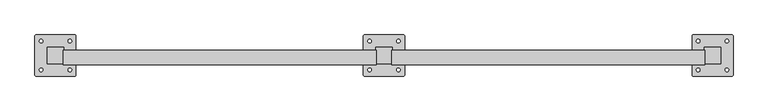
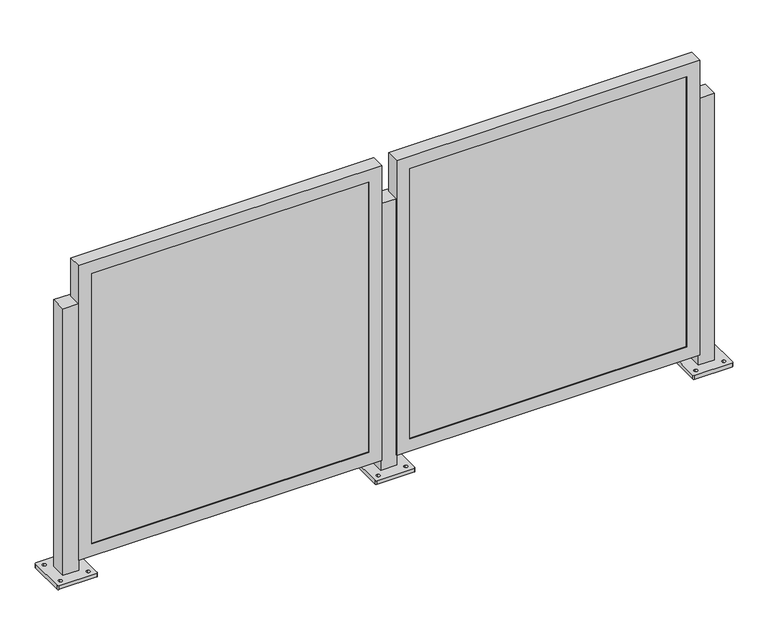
"""IFC4 building model written with IfcOpenShell, lengths in millimetres: railing geometry, Railing - Amico Architectural - Perforated Railing - Apex03."""

from ifc_helpers import new_model, si_unit, frame, origin, place, context, project, spatial, polyline, circle_curve, outline, extrude, faceted_brep, source, transform, mapped, element, save
from ifc_brep_helpers import plane_surface, cylinder_surface, revolved_surface, advanced_brep


def railing_c32b87f0(model_context):
    return source(origin(), model_context, "Body", "SolidModel", [
        advanced_brep(
        [(-26997.5891671, -9669.5402105, 914.4), (-26997.5891671, -9720.3402105, 914.4), (-26946.7891671, -9720.3402105, 914.4), (-26946.7891671, -9669.5402105, 914.4), (-27035.6891672, -9755.2651694, 0.0), (-27035.6891672, -9634.6152515, 0.0), (-27032.5141391, -9631.4402233, 0.0), (-26911.8641951, -9631.4402233, 0.0), (-26908.6891669, -9634.6152515, 0.0), (-26908.6891669, -9755.2651694, 0.0), (-26911.8641951, -9758.4401976, 0.0), (-27032.5141391, -9758.4401976, 0.0), (-27016.6391546, -9744.9464651, 0.0), (-27016.6391546, -9733.8339526, 0.0), (-27016.6391655, -9656.0464607, 0.0), (-27016.6391655, -9644.9339791, 0.0), (-26927.7391536, -9744.9464636, 0.0), (-26927.7391536, -9733.8339529, 0.0), (-26927.7391646, -9656.0464592, 0.0), (-26927.7391646, -9644.9339794, 0.0), (-26997.5891671, -9669.5402105, 12.7), (-26997.5891671, -9720.3402105, 12.7), (-26946.7891671, -9720.3402105, 12.7), (-26946.7891671, -9669.5402105, 12.7), (-27035.6891672, -9755.2651694, 12.7), (-27032.5141391, -9758.4401976, 12.7), (-26911.8641951, -9758.4401976, 12.7), (-26908.6891669, -9755.2651694, 12.7), (-26908.6891669, -9634.6152515, 12.7), (-26911.8641951, -9631.4402233, 12.7), (-27032.5141391, -9631.4402233, 12.7), (-27035.6891672, -9634.6152515, 12.7), (-27016.6391546, -9744.9464651, 12.7), (-27016.6391546, -9733.8339526, 12.7), (-27016.6391655, -9656.0464607, 12.7), (-27016.6391655, -9644.9339791, 12.7), (-26927.7391536, -9744.9464636, 12.7), (-26927.7391536, -9733.8339529, 12.7), (-26927.7391646, -9656.0464592, 12.7), (-26927.7391646, -9644.9339794, 12.7)],
        [
            (0, 1),
            (1, 2),
            (2, 3),
            (3, 0),
            (4, 5),
            (5, 6, circle_curve(frame((-27032.5141391, -9634.6152515, 0.0), z_axis=(0.0, 0.0, -1.0), x_axis=(0.0, 1.0, 0.0)), 3.1750282)),
            (6, 7),
            (7, 8, circle_curve(frame((-26911.8641951, -9634.6152515, 0.0), z_axis=(0.0, 0.0, -1.0), x_axis=(0.0, 1.0, 0.0)), 3.1750282)),
            (8, 9),
            (9, 10, circle_curve(frame((-26911.8641951, -9755.2651694, 0.0), z_axis=(0.0, 0.0, -1.0), x_axis=(0.0, 1.0, 0.0)), 3.1750282)),
            (10, 11),
            (11, 4, circle_curve(frame((-27032.5141391, -9755.2651694, 0.0), z_axis=(0.0, 0.0, -1.0), x_axis=(0.0, 1.0, 0.0)), 3.1750282)),
            (12, 13, circle_curve(frame((-27016.6391546, -9739.3902089, 0.0), z_axis=(0.0, 0.0, 1.0), x_axis=(0.0, 1.0, 0.0)), 5.5562562)),
            (13, 12, circle_curve(frame((-27016.6391546, -9739.3902089, 0.0), z_axis=(0.0, 0.0, 1.0), x_axis=(0.0, 1.0, 0.0)), 5.5562562)),
            (14, 15, circle_curve(frame((-27016.6391655, -9650.4902199, 0.0), z_axis=(0.0, 0.0, 1.0), x_axis=(0.0, 1.0, 0.0)), 5.5562408)),
            (15, 14, circle_curve(frame((-27016.6391655, -9650.4902199, 0.0), z_axis=(0.0, 0.0, 1.0), x_axis=(0.0, 1.0, 0.0)), 5.5562408)),
            (16, 17, circle_curve(frame((-26927.7391536, -9739.3902082, 0.0), z_axis=(0.0, 0.0, 1.0), x_axis=(0.0, 1.0, 0.0)), 5.5562553)),
            (17, 16, circle_curve(frame((-26927.7391536, -9739.3902082, 0.0), z_axis=(0.0, 0.0, 1.0), x_axis=(0.0, 1.0, 0.0)), 5.5562553)),
            (18, 19, circle_curve(frame((-26927.7391646, -9650.4902193, 0.0), z_axis=(0.0, 0.0, 1.0), x_axis=(0.0, 1.0, 0.0)), 5.5562399)),
            (19, 18, circle_curve(frame((-26927.7391646, -9650.4902193, 0.0), z_axis=(0.0, 0.0, 1.0), x_axis=(0.0, 1.0, 0.0)), 5.5562399)),
            (0, 20),
            (20, 21),
            (21, 1),
            (21, 22),
            (22, 2),
            (22, 23),
            (23, 3),
            (23, 20),
            (24, 25, circle_curve(frame((-27032.5141391, -9755.2651694, 12.7), z_axis=(0.0, 0.0, 1.0), x_axis=(0.0, 1.0, 0.0)), 3.1750282)),
            (25, 26),
            (26, 27, circle_curve(frame((-26911.8641951, -9755.2651694, 12.7), z_axis=(0.0, 0.0, 1.0), x_axis=(0.0, 1.0, 0.0)), 3.1750282)),
            (27, 28),
            (28, 29, circle_curve(frame((-26911.8641951, -9634.6152515, 12.7), z_axis=(0.0, 0.0, 1.0), x_axis=(0.0, 1.0, 0.0)), 3.1750282)),
            (29, 30),
            (30, 31, circle_curve(frame((-27032.5141391, -9634.6152515, 12.7), z_axis=(0.0, 0.0, 1.0), x_axis=(0.0, 1.0, 0.0)), 3.1750282)),
            (31, 24),
            (32, 33, circle_curve(frame((-27016.6391546, -9739.3902089, 12.7), z_axis=(0.0, 0.0, -1.0), x_axis=(0.0, 1.0, 0.0)), 5.5562562)),
            (33, 32, circle_curve(frame((-27016.6391546, -9739.3902089, 12.7), z_axis=(0.0, 0.0, -1.0), x_axis=(0.0, 1.0, 0.0)), 5.5562562)),
            (34, 35, circle_curve(frame((-27016.6391655, -9650.4902199, 12.7), z_axis=(0.0, 0.0, -1.0), x_axis=(0.0, 1.0, 0.0)), 5.5562408)),
            (35, 34, circle_curve(frame((-27016.6391655, -9650.4902199, 12.7), z_axis=(0.0, 0.0, -1.0), x_axis=(0.0, 1.0, 0.0)), 5.5562408)),
            (36, 37, circle_curve(frame((-26927.7391536, -9739.3902082, 12.7), z_axis=(0.0, 0.0, -1.0), x_axis=(0.0, 1.0, 0.0)), 5.5562553)),
            (37, 36, circle_curve(frame((-26927.7391536, -9739.3902082, 12.7), z_axis=(0.0, 0.0, -1.0), x_axis=(0.0, 1.0, 0.0)), 5.5562553)),
            (38, 39, circle_curve(frame((-26927.7391646, -9650.4902193, 12.7), z_axis=(0.0, 0.0, -1.0), x_axis=(0.0, 1.0, 0.0)), 5.5562399)),
            (39, 38, circle_curve(frame((-26927.7391646, -9650.4902193, 12.7), z_axis=(0.0, 0.0, -1.0), x_axis=(0.0, 1.0, 0.0)), 5.5562399)),
            (24, 4),
            (11, 25),
            (10, 26),
            (9, 27),
            (8, 28),
            (7, 29),
            (6, 30),
            (5, 31),
            (32, 12),
            (13, 33),
            (34, 14),
            (15, 35),
            (36, 16),
            (17, 37),
            (38, 18),
            (19, 39),
        ],
        [
            plane_surface(frame((-26997.5891671, -9720.3402105, 914.4), z_axis=(0.0, 0.0, 1.0), x_axis=(0.0, -1.0, 0.0))),
            plane_surface(frame((-26997.5891671, -9720.3402105, 0.0), z_axis=(0.0, 0.0, -1.0), x_axis=(0.0, 1.0, 0.0))),
            plane_surface(frame((-26997.5891671, -9669.5402105, 914.4), z_axis=(-1.0, 0.0, 0.0), x_axis=(0.0, 0.0, -1.0))),
            plane_surface(frame((-26997.5891671, -9720.3402105, 914.4), z_axis=(0.0, -1.0, 0.0), x_axis=(0.0, 0.0, -1.0))),
            plane_surface(frame((-26946.7891671, -9720.3402105, 914.4), z_axis=(1.0, 0.0, 0.0), x_axis=(0.0, 0.0, -1.0))),
            plane_surface(frame((-26946.7891671, -9669.5402105, 914.4), z_axis=(0.0, 1.0, 0.0), x_axis=(0.0, 0.0, -1.0))),
            plane_surface(frame((-27032.5141391, -9752.0901413, 12.7), z_axis=(0.0, 0.0, 1.0), x_axis=(-1.0, 0.0, 0.0))),
            cylinder_surface(frame((-27032.5141391, -9755.2651694, 0.0), z_axis=(0.0, 0.0, 1.0), x_axis=(0.0, 1.0, 0.0)), 3.1750282),
            plane_surface(frame((-27032.5141391, -9758.4401976, 12.7), z_axis=(1.1945386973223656e-12, -1.0, 0.0), x_axis=(0.0, 0.0, -1.0))),
            cylinder_surface(frame((-26911.8641951, -9755.2651694, 0.0), z_axis=(0.0, 0.0, 1.0), x_axis=(0.0, 1.0, 0.0)), 3.1750282),
            plane_surface(frame((-26908.6891669, -9755.2651694, 12.7), z_axis=(1.0, 0.0, 0.0), x_axis=(0.0, 0.0, -1.0))),
            cylinder_surface(frame((-26911.8641951, -9634.6152515, 0.0), z_axis=(0.0, 0.0, 1.0), x_axis=(0.0, 1.0, 0.0)), 3.1750282),
            plane_surface(frame((-26911.8641951, -9631.4402233, 12.7), z_axis=(-1.1946088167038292e-12, 1.0, 0.0), x_axis=(0.0, 0.0, -1.0))),
            cylinder_surface(frame((-27032.5141391, -9634.6152515, 0.0), z_axis=(0.0, 0.0, 1.0), x_axis=(0.0, 1.0, 0.0)), 3.1750282),
            plane_surface(frame((-27035.6891672, -9634.6152515, 12.7), z_axis=(-1.0, 0.0, 0.0), x_axis=(0.0, 0.0, -1.0))),
            revolved_surface(polyline([(-27016.6391546, -9733.8339527, 0.0), (-27016.6391546, -9733.8339527, 12.7)]), (-27016.6391546, -9739.3902089, 0.0), (0.0, 0.0, -1.0)),
            revolved_surface(polyline([(-27016.6391655, -9644.9339791, 0.0), (-27016.6391655, -9644.9339791, 12.7)]), (-27016.6391655, -9650.4902199, 0.0), (0.0, 0.0, -1.0)),
            revolved_surface(polyline([(-26927.7391536, -9733.8339529, 0.0), (-26927.7391536, -9733.8339529, 12.7)]), (-26927.7391536, -9739.3902082, 0.0), (0.0, 0.0, -1.0)),
            revolved_surface(polyline([(-26927.7391646, -9644.9339794, 0.0), (-26927.7391646, -9644.9339794, 12.7)]), (-26927.7391646, -9650.4902193, 0.0), (0.0, 0.0, -1.0)),
        ],
        [
            (0, [[1, 2, 3, 4]]),
            (1, [[5, 6, 7, 8, 9, 10, 11, 12], [13, 14], [15, 16], [17, 18], [19, 20]]),
            (2, [[-1, 21, 22, 23]]),
            (3, [[-2, -23, 24, 25]]),
            (4, [[-3, -25, 26, 27]]),
            (5, [[-4, -27, 28, -21]]),
            (6, [[29, 30, 31, 32, 33, 34, 35, 36], [-22, -28, -26, -24], [37, 38], [39, 40], [41, 42], [43, 44]]),
            (7, [[-29, 45, -12, 46]]),
            (8, [[-30, -46, -11, 47]]),
            (9, [[-31, -47, -10, 48]]),
            (10, [[-32, -48, -9, 49]]),
            (11, [[-33, -49, -8, 50]]),
            (12, [[-34, -50, -7, 51]]),
            (13, [[-35, -51, -6, 52]]),
            (14, [[-36, -52, -5, -45]]),
            (15, [[-37, 53, -14, 54]]),
            (15, [[-38, -54, -13, -53]]),
            (16, [[-39, 55, -16, 56]]),
            (16, [[-40, -56, -15, -55]]),
            (17, [[-41, 57, -18, 58]]),
            (17, [[-42, -58, -17, -57]]),
            (18, [[-43, 59, -20, 60]]),
            (18, [[-44, -60, -19, -59]]),
        ],
    ),
        faceted_brep([(-27963.9936205, -9723.0834105, 47.625), (-26995.6186205, -9723.0834105, 47.625), (-26995.6186205, -9723.0834105, 1044.575), (-27963.9936205, -9723.0834105, 1044.575), (-27922.7186205, -9723.0834105, 1003.3), (-27036.8936205, -9723.0834105, 1003.3), (-27036.8936205, -9723.0834105, 88.9), (-27922.7186205, -9723.0834105, 88.9), (-27922.7186205, -9720.3402105, 1003.3), (-27922.7186205, -9720.3402105, 88.9), (-27963.9936205, -9679.2101139, 1044.575), (-27963.9936205, -9679.2101139, 47.625), (-27960.8186205, -9679.2101139, 1041.4), (-27960.8186205, -9720.3402105, 1041.4), (-27960.8186205, -9720.3402105, 50.8), (-27960.8186205, -9679.2101139, 50.8), (-27036.8936205, -9720.3402105, 88.9), (-26995.6186205, -9679.2101139, 47.625), (-26998.7936205, -9720.3402105, 50.8), (-26998.7936205, -9679.2101139, 50.8), (-27036.8936205, -9720.3402105, 1003.3), (-26995.6186205, -9679.2101139, 1044.575), (-26998.7936205, -9720.3402105, 1041.4), (-26998.7936205, -9679.2101139, 1041.4)], [[[0, 1, 2, 3], [4, 5, 6, 7]], [[8, 4, 7, 9]], [[3, 10, 11, 0]], [[12, 13, 14, 15]], [[9, 7, 6, 16]], [[0, 11, 17, 1]], [[15, 14, 18, 19]], [[16, 6, 5, 20]], [[1, 17, 21, 2]], [[19, 18, 22, 23]], [[20, 5, 4, 8]], [[10, 21, 17, 11], [15, 19, 23, 12]], [[2, 21, 10, 3]], [[13, 22, 18, 14], [9, 16, 20, 8]], [[23, 22, 13, 12]]]),
        extrude(outline(polyline([(-27960.8186205, -9710.8152105), (-26998.7936205, -9710.8152105), (-26998.7936205, -9720.3402105), (-27960.8186205, -9720.3402105), (-27960.8186205, -9710.8152105)])), frame((0.0, 0.0, 50.8), z_axis=(0.0, 0.0, 1.0), x_axis=(1.0, 0.0, 0.0)), (0.0, 0.0, 1.0), 990.6),
        advanced_brep(
        [(-28013.5891671, -9669.5402105, 914.4), (-28013.5891671, -9720.3402105, 914.4), (-27962.7891671, -9720.3402105, 914.4), (-27962.7891671, -9669.5402105, 914.4), (-28051.6891672, -9755.2651694, 0.0), (-28051.6891672, -9634.6152515, 0.0), (-28048.5141391, -9631.4402233, 0.0), (-27927.8641951, -9631.4402233, 0.0), (-27924.6891669, -9634.6152515, 0.0), (-27924.6891669, -9755.2651694, 0.0), (-27927.8641951, -9758.4401976, 0.0), (-28048.5141391, -9758.4401976, 0.0), (-28032.6391546, -9744.9464651, 0.0), (-28032.6391546, -9733.8339526, 0.0), (-28032.6391655, -9656.0464607, 0.0), (-28032.6391655, -9644.9339791, 0.0), (-27943.7391536, -9744.9464636, 0.0), (-27943.7391536, -9733.8339529, 0.0), (-27943.7391646, -9656.0464592, 0.0), (-27943.7391646, -9644.9339794, 0.0), (-28013.5891671, -9669.5402105, 12.7), (-28013.5891671, -9720.3402105, 12.7), (-27962.7891671, -9720.3402105, 12.7), (-27962.7891671, -9669.5402105, 12.7), (-28051.6891672, -9755.2651694, 12.7), (-28048.5141391, -9758.4401976, 12.7), (-27927.8641951, -9758.4401976, 12.7), (-27924.6891669, -9755.2651694, 12.7), (-27924.6891669, -9634.6152515, 12.7), (-27927.8641951, -9631.4402233, 12.7), (-28048.5141391, -9631.4402233, 12.7), (-28051.6891672, -9634.6152515, 12.7), (-28032.6391546, -9744.9464651, 12.7), (-28032.6391546, -9733.8339526, 12.7), (-28032.6391655, -9656.0464607, 12.7), (-28032.6391655, -9644.9339791, 12.7), (-27943.7391536, -9744.9464636, 12.7), (-27943.7391536, -9733.8339529, 12.7), (-27943.7391646, -9656.0464592, 12.7), (-27943.7391646, -9644.9339794, 12.7)],
        [
            (0, 1),
            (1, 2),
            (2, 3),
            (3, 0),
            (4, 5),
            (5, 6, circle_curve(frame((-28048.5141391, -9634.6152515, 0.0), z_axis=(0.0, 0.0, -1.0), x_axis=(0.0, 1.0, 0.0)), 3.1750282)),
            (6, 7),
            (7, 8, circle_curve(frame((-27927.8641951, -9634.6152515, 0.0), z_axis=(0.0, 0.0, -1.0), x_axis=(0.0, 1.0, 0.0)), 3.1750282)),
            (8, 9),
            (9, 10, circle_curve(frame((-27927.8641951, -9755.2651694, 0.0), z_axis=(0.0, 0.0, -1.0), x_axis=(0.0, 1.0, 0.0)), 3.1750282)),
            (10, 11),
            (11, 4, circle_curve(frame((-28048.5141391, -9755.2651694, 0.0), z_axis=(0.0, 0.0, -1.0), x_axis=(0.0, 1.0, 0.0)), 3.1750282)),
            (12, 13, circle_curve(frame((-28032.6391546, -9739.3902089, 0.0), z_axis=(0.0, 0.0, 1.0), x_axis=(0.0, 1.0, 0.0)), 5.5562562)),
            (13, 12, circle_curve(frame((-28032.6391546, -9739.3902089, 0.0), z_axis=(0.0, 0.0, 1.0), x_axis=(0.0, 1.0, 0.0)), 5.5562562)),
            (14, 15, circle_curve(frame((-28032.6391655, -9650.4902199, 0.0), z_axis=(0.0, 0.0, 1.0), x_axis=(0.0, 1.0, 0.0)), 5.5562408)),
            (15, 14, circle_curve(frame((-28032.6391655, -9650.4902199, 0.0), z_axis=(0.0, 0.0, 1.0), x_axis=(0.0, 1.0, 0.0)), 5.5562408)),
            (16, 17, circle_curve(frame((-27943.7391536, -9739.3902082, 0.0), z_axis=(0.0, 0.0, 1.0), x_axis=(0.0, 1.0, 0.0)), 5.5562553)),
            (17, 16, circle_curve(frame((-27943.7391536, -9739.3902082, 0.0), z_axis=(0.0, 0.0, 1.0), x_axis=(0.0, 1.0, 0.0)), 5.5562553)),
            (18, 19, circle_curve(frame((-27943.7391646, -9650.4902193, 0.0), z_axis=(0.0, 0.0, 1.0), x_axis=(0.0, 1.0, 0.0)), 5.5562399)),
            (19, 18, circle_curve(frame((-27943.7391646, -9650.4902193, 0.0), z_axis=(0.0, 0.0, 1.0), x_axis=(0.0, 1.0, 0.0)), 5.5562399)),
            (0, 20),
            (20, 21),
            (21, 1),
            (21, 22),
            (22, 2),
            (22, 23),
            (23, 3),
            (23, 20),
            (24, 25, circle_curve(frame((-28048.5141391, -9755.2651694, 12.7), z_axis=(0.0, 0.0, 1.0), x_axis=(0.0, 1.0, 0.0)), 3.1750282)),
            (25, 26),
            (26, 27, circle_curve(frame((-27927.8641951, -9755.2651694, 12.7), z_axis=(0.0, 0.0, 1.0), x_axis=(0.0, 1.0, 0.0)), 3.1750282)),
            (27, 28),
            (28, 29, circle_curve(frame((-27927.8641951, -9634.6152515, 12.7), z_axis=(0.0, 0.0, 1.0), x_axis=(0.0, 1.0, 0.0)), 3.1750282)),
            (29, 30),
            (30, 31, circle_curve(frame((-28048.5141391, -9634.6152515, 12.7), z_axis=(0.0, 0.0, 1.0), x_axis=(0.0, 1.0, 0.0)), 3.1750282)),
            (31, 24),
            (32, 33, circle_curve(frame((-28032.6391546, -9739.3902089, 12.7), z_axis=(0.0, 0.0, -1.0), x_axis=(0.0, 1.0, 0.0)), 5.5562562)),
            (33, 32, circle_curve(frame((-28032.6391546, -9739.3902089, 12.7), z_axis=(0.0, 0.0, -1.0), x_axis=(0.0, 1.0, 0.0)), 5.5562562)),
            (34, 35, circle_curve(frame((-28032.6391655, -9650.4902199, 12.7), z_axis=(0.0, 0.0, -1.0), x_axis=(0.0, 1.0, 0.0)), 5.5562408)),
            (35, 34, circle_curve(frame((-28032.6391655, -9650.4902199, 12.7), z_axis=(0.0, 0.0, -1.0), x_axis=(0.0, 1.0, 0.0)), 5.5562408)),
            (36, 37, circle_curve(frame((-27943.7391536, -9739.3902082, 12.7), z_axis=(0.0, 0.0, -1.0), x_axis=(0.0, 1.0, 0.0)), 5.5562553)),
            (37, 36, circle_curve(frame((-27943.7391536, -9739.3902082, 12.7), z_axis=(0.0, 0.0, -1.0), x_axis=(0.0, 1.0, 0.0)), 5.5562553)),
            (38, 39, circle_curve(frame((-27943.7391646, -9650.4902193, 12.7), z_axis=(0.0, 0.0, -1.0), x_axis=(0.0, 1.0, 0.0)), 5.5562399)),
            (39, 38, circle_curve(frame((-27943.7391646, -9650.4902193, 12.7), z_axis=(0.0, 0.0, -1.0), x_axis=(0.0, 1.0, 0.0)), 5.5562399)),
            (24, 4),
            (11, 25),
            (10, 26),
            (9, 27),
            (8, 28),
            (7, 29),
            (6, 30),
            (5, 31),
            (32, 12),
            (13, 33),
            (34, 14),
            (15, 35),
            (36, 16),
            (17, 37),
            (38, 18),
            (19, 39),
        ],
        [
            plane_surface(frame((-28013.5891671, -9720.3402105, 914.4), z_axis=(0.0, 0.0, 1.0), x_axis=(0.0, -1.0, 0.0))),
            plane_surface(frame((-28013.5891671, -9720.3402105, 0.0), z_axis=(0.0, 0.0, -1.0), x_axis=(0.0, 1.0, 0.0))),
            plane_surface(frame((-28013.5891671, -9669.5402105, 914.4), z_axis=(-1.0, 0.0, 0.0), x_axis=(0.0, 0.0, -1.0))),
            plane_surface(frame((-28013.5891671, -9720.3402105, 914.4), z_axis=(0.0, -1.0, 0.0), x_axis=(0.0, 0.0, -1.0))),
            plane_surface(frame((-27962.7891671, -9720.3402105, 914.4), z_axis=(1.0, 0.0, 0.0), x_axis=(0.0, 0.0, -1.0))),
            plane_surface(frame((-27962.7891671, -9669.5402105, 914.4), z_axis=(0.0, 1.0, 0.0), x_axis=(0.0, 0.0, -1.0))),
            plane_surface(frame((-28048.5141391, -9752.0901413, 12.7), z_axis=(0.0, 0.0, 1.0), x_axis=(-1.0, 0.0, 0.0))),
            cylinder_surface(frame((-28048.5141391, -9755.2651694, 0.0), z_axis=(0.0, 0.0, 1.0), x_axis=(0.0, 1.0, 0.0)), 3.1750282),
            plane_surface(frame((-28048.5141391, -9758.4401976, 12.7), z_axis=(1.1945386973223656e-12, -1.0, 0.0), x_axis=(0.0, 0.0, -1.0))),
            cylinder_surface(frame((-27927.8641951, -9755.2651694, 0.0), z_axis=(0.0, 0.0, 1.0), x_axis=(0.0, 1.0, 0.0)), 3.1750282),
            plane_surface(frame((-27924.6891669, -9755.2651694, 12.7), z_axis=(1.0, 0.0, 0.0), x_axis=(0.0, 0.0, -1.0))),
            cylinder_surface(frame((-27927.8641951, -9634.6152515, 0.0), z_axis=(0.0, 0.0, 1.0), x_axis=(0.0, 1.0, 0.0)), 3.1750282),
            plane_surface(frame((-27927.8641951, -9631.4402233, 12.7), z_axis=(-1.1946088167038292e-12, 1.0, 0.0), x_axis=(0.0, 0.0, -1.0))),
            cylinder_surface(frame((-28048.5141391, -9634.6152515, 0.0), z_axis=(0.0, 0.0, 1.0), x_axis=(0.0, 1.0, 0.0)), 3.1750282),
            plane_surface(frame((-28051.6891672, -9634.6152515, 12.7), z_axis=(-1.0, 0.0, 0.0), x_axis=(0.0, 0.0, -1.0))),
            revolved_surface(polyline([(-28032.6391546, -9733.8339527, 0.0), (-28032.6391546, -9733.8339527, 12.7)]), (-28032.6391546, -9739.3902089, 0.0), (0.0, 0.0, -1.0)),
            revolved_surface(polyline([(-28032.6391655, -9644.9339791, 0.0), (-28032.6391655, -9644.9339791, 12.7)]), (-28032.6391655, -9650.4902199, 0.0), (0.0, 0.0, -1.0)),
            revolved_surface(polyline([(-27943.7391536, -9733.8339529, 0.0), (-27943.7391536, -9733.8339529, 12.7)]), (-27943.7391536, -9739.3902082, 0.0), (0.0, 0.0, -1.0)),
            revolved_surface(polyline([(-27943.7391646, -9644.9339794, 0.0), (-27943.7391646, -9644.9339794, 12.7)]), (-27943.7391646, -9650.4902193, 0.0), (0.0, 0.0, -1.0)),
        ],
        [
            (0, [[1, 2, 3, 4]]),
            (1, [[5, 6, 7, 8, 9, 10, 11, 12], [13, 14], [15, 16], [17, 18], [19, 20]]),
            (2, [[-1, 21, 22, 23]]),
            (3, [[-2, -23, 24, 25]]),
            (4, [[-3, -25, 26, 27]]),
            (5, [[-4, -27, 28, -21]]),
            (6, [[29, 30, 31, 32, 33, 34, 35, 36], [-22, -28, -26, -24], [37, 38], [39, 40], [41, 42], [43, 44]]),
            (7, [[-29, 45, -12, 46]]),
            (8, [[-30, -46, -11, 47]]),
            (9, [[-31, -47, -10, 48]]),
            (10, [[-32, -48, -9, 49]]),
            (11, [[-33, -49, -8, 50]]),
            (12, [[-34, -50, -7, 51]]),
            (13, [[-35, -51, -6, 52]]),
            (14, [[-36, -52, -5, -45]]),
            (15, [[-37, 53, -14, 54]]),
            (15, [[-38, -54, -13, -53]]),
            (16, [[-39, 55, -16, 56]]),
            (16, [[-40, -56, -15, -55]]),
            (17, [[-41, 57, -18, 58]]),
            (17, [[-42, -58, -17, -57]]),
            (18, [[-43, 59, -20, 60]]),
            (18, [[-44, -60, -19, -59]]),
        ],
    ),
        faceted_brep([(-28979.9936205, -9723.0834105, 47.625), (-28011.6186205, -9723.0834105, 47.625), (-28011.6186205, -9723.0834105, 1044.575), (-28979.9936205, -9723.0834105, 1044.575), (-28938.7186205, -9723.0834105, 1003.3), (-28052.8936205, -9723.0834105, 1003.3), (-28052.8936205, -9723.0834105, 88.9), (-28938.7186205, -9723.0834105, 88.9), (-28938.7186205, -9720.3402105, 1003.3), (-28938.7186205, -9720.3402105, 88.9), (-28979.9936205, -9679.2101139, 1044.575), (-28979.9936205, -9679.2101139, 47.625), (-28976.8186205, -9679.2101139, 1041.4), (-28976.8186205, -9720.3402105, 1041.4), (-28976.8186205, -9720.3402105, 50.8), (-28976.8186205, -9679.2101139, 50.8), (-28052.8936205, -9720.3402105, 88.9), (-28011.6186205, -9679.2101139, 47.625), (-28014.7936205, -9720.3402105, 50.8), (-28014.7936205, -9679.2101139, 50.8), (-28052.8936205, -9720.3402105, 1003.3), (-28011.6186205, -9679.2101139, 1044.575), (-28014.7936205, -9720.3402105, 1041.4), (-28014.7936205, -9679.2101139, 1041.4)], [[[0, 1, 2, 3], [4, 5, 6, 7]], [[8, 4, 7, 9]], [[3, 10, 11, 0]], [[12, 13, 14, 15]], [[9, 7, 6, 16]], [[0, 11, 17, 1]], [[15, 14, 18, 19]], [[16, 6, 5, 20]], [[1, 17, 21, 2]], [[19, 18, 22, 23]], [[20, 5, 4, 8]], [[10, 21, 17, 11], [15, 19, 23, 12]], [[2, 21, 10, 3]], [[13, 22, 18, 14], [9, 16, 20, 8]], [[23, 22, 13, 12]]]),
        extrude(outline(polyline([(-28976.8186205, -9710.8152105), (-28014.7936205, -9710.8152105), (-28014.7936205, -9720.3402105), (-28976.8186205, -9720.3402105), (-28976.8186205, -9710.8152105)])), frame((0.0, 0.0, 50.8), z_axis=(0.0, 0.0, 1.0), x_axis=(1.0, 0.0, 0.0)), (0.0, 0.0, 1.0), 990.6),
        advanced_brep(
        [(-29029.5891671, -9669.5402105, 914.4), (-29029.5891671, -9720.3402105, 914.4), (-28978.7891671, -9720.3402105, 914.4), (-28978.7891671, -9669.5402105, 914.4), (-29067.6891672, -9755.2651694, 0.0), (-29067.6891672, -9634.6152515, 0.0), (-29064.5141391, -9631.4402233, 0.0), (-28943.8641951, -9631.4402233, 0.0), (-28940.6891669, -9634.6152515, 0.0), (-28940.6891669, -9755.2651694, 0.0), (-28943.8641951, -9758.4401976, 0.0), (-29064.5141391, -9758.4401976, 0.0), (-29048.6391546, -9744.9464651, 0.0), (-29048.6391546, -9733.8339526, 0.0), (-29048.6391655, -9656.0464607, 0.0), (-29048.6391655, -9644.9339791, 0.0), (-28959.7391536, -9744.9464636, 0.0), (-28959.7391536, -9733.8339529, 0.0), (-28959.7391646, -9656.0464592, 0.0), (-28959.7391646, -9644.9339794, 0.0), (-29029.5891671, -9669.5402105, 12.7), (-29029.5891671, -9720.3402105, 12.7), (-28978.7891671, -9720.3402105, 12.7), (-28978.7891671, -9669.5402105, 12.7), (-29067.6891672, -9755.2651694, 12.7), (-29064.5141391, -9758.4401976, 12.7), (-28943.8641951, -9758.4401976, 12.7), (-28940.6891669, -9755.2651694, 12.7), (-28940.6891669, -9634.6152515, 12.7), (-28943.8641951, -9631.4402233, 12.7), (-29064.5141391, -9631.4402233, 12.7), (-29067.6891672, -9634.6152515, 12.7), (-29048.6391546, -9744.9464651, 12.7), (-29048.6391546, -9733.8339526, 12.7), (-29048.6391655, -9656.0464607, 12.7), (-29048.6391655, -9644.9339791, 12.7), (-28959.7391536, -9744.9464636, 12.7), (-28959.7391536, -9733.8339529, 12.7), (-28959.7391646, -9656.0464592, 12.7), (-28959.7391646, -9644.9339794, 12.7)],
        [
            (0, 1),
            (1, 2),
            (2, 3),
            (3, 0),
            (4, 5),
            (5, 6, circle_curve(frame((-29064.5141391, -9634.6152515, 0.0), z_axis=(0.0, 0.0, -1.0), x_axis=(0.0, 1.0, 0.0)), 3.1750282)),
            (6, 7),
            (7, 8, circle_curve(frame((-28943.8641951, -9634.6152515, 0.0), z_axis=(0.0, 0.0, -1.0), x_axis=(0.0, 1.0, 0.0)), 3.1750282)),
            (8, 9),
            (9, 10, circle_curve(frame((-28943.8641951, -9755.2651694, 0.0), z_axis=(0.0, 0.0, -1.0), x_axis=(0.0, 1.0, 0.0)), 3.1750282)),
            (10, 11),
            (11, 4, circle_curve(frame((-29064.5141391, -9755.2651694, 0.0), z_axis=(0.0, 0.0, -1.0), x_axis=(0.0, 1.0, 0.0)), 3.1750282)),
            (12, 13, circle_curve(frame((-29048.6391546, -9739.3902089, 0.0), z_axis=(0.0, 0.0, 1.0), x_axis=(0.0, 1.0, 0.0)), 5.5562562)),
            (13, 12, circle_curve(frame((-29048.6391546, -9739.3902089, 0.0), z_axis=(0.0, 0.0, 1.0), x_axis=(0.0, 1.0, 0.0)), 5.5562562)),
            (14, 15, circle_curve(frame((-29048.6391655, -9650.4902199, 0.0), z_axis=(0.0, 0.0, 1.0), x_axis=(0.0, 1.0, 0.0)), 5.5562408)),
            (15, 14, circle_curve(frame((-29048.6391655, -9650.4902199, 0.0), z_axis=(0.0, 0.0, 1.0), x_axis=(0.0, 1.0, 0.0)), 5.5562408)),
            (16, 17, circle_curve(frame((-28959.7391536, -9739.3902082, 0.0), z_axis=(0.0, 0.0, 1.0), x_axis=(0.0, 1.0, 0.0)), 5.5562553)),
            (17, 16, circle_curve(frame((-28959.7391536, -9739.3902082, 0.0), z_axis=(0.0, 0.0, 1.0), x_axis=(0.0, 1.0, 0.0)), 5.5562553)),
            (18, 19, circle_curve(frame((-28959.7391646, -9650.4902193, 0.0), z_axis=(0.0, 0.0, 1.0), x_axis=(0.0, 1.0, 0.0)), 5.5562399)),
            (19, 18, circle_curve(frame((-28959.7391646, -9650.4902193, 0.0), z_axis=(0.0, 0.0, 1.0), x_axis=(0.0, 1.0, 0.0)), 5.5562399)),
            (0, 20),
            (20, 21),
            (21, 1),
            (21, 22),
            (22, 2),
            (22, 23),
            (23, 3),
            (23, 20),
            (24, 25, circle_curve(frame((-29064.5141391, -9755.2651694, 12.7), z_axis=(0.0, 0.0, 1.0), x_axis=(0.0, 1.0, 0.0)), 3.1750282)),
            (25, 26),
            (26, 27, circle_curve(frame((-28943.8641951, -9755.2651694, 12.7), z_axis=(0.0, 0.0, 1.0), x_axis=(0.0, 1.0, 0.0)), 3.1750282)),
            (27, 28),
            (28, 29, circle_curve(frame((-28943.8641951, -9634.6152515, 12.7), z_axis=(0.0, 0.0, 1.0), x_axis=(0.0, 1.0, 0.0)), 3.1750282)),
            (29, 30),
            (30, 31, circle_curve(frame((-29064.5141391, -9634.6152515, 12.7), z_axis=(0.0, 0.0, 1.0), x_axis=(0.0, 1.0, 0.0)), 3.1750282)),
            (31, 24),
            (32, 33, circle_curve(frame((-29048.6391546, -9739.3902089, 12.7), z_axis=(0.0, 0.0, -1.0), x_axis=(0.0, 1.0, 0.0)), 5.5562562)),
            (33, 32, circle_curve(frame((-29048.6391546, -9739.3902089, 12.7), z_axis=(0.0, 0.0, -1.0), x_axis=(0.0, 1.0, 0.0)), 5.5562562)),
            (34, 35, circle_curve(frame((-29048.6391655, -9650.4902199, 12.7), z_axis=(0.0, 0.0, -1.0), x_axis=(0.0, 1.0, 0.0)), 5.5562408)),
            (35, 34, circle_curve(frame((-29048.6391655, -9650.4902199, 12.7), z_axis=(0.0, 0.0, -1.0), x_axis=(0.0, 1.0, 0.0)), 5.5562408)),
            (36, 37, circle_curve(frame((-28959.7391536, -9739.3902082, 12.7), z_axis=(0.0, 0.0, -1.0), x_axis=(0.0, 1.0, 0.0)), 5.5562553)),
            (37, 36, circle_curve(frame((-28959.7391536, -9739.3902082, 12.7), z_axis=(0.0, 0.0, -1.0), x_axis=(0.0, 1.0, 0.0)), 5.5562553)),
            (38, 39, circle_curve(frame((-28959.7391646, -9650.4902193, 12.7), z_axis=(0.0, 0.0, -1.0), x_axis=(0.0, 1.0, 0.0)), 5.5562399)),
            (39, 38, circle_curve(frame((-28959.7391646, -9650.4902193, 12.7), z_axis=(0.0, 0.0, -1.0), x_axis=(0.0, 1.0, 0.0)), 5.5562399)),
            (24, 4),
            (11, 25),
            (10, 26),
            (9, 27),
            (8, 28),
            (7, 29),
            (6, 30),
            (5, 31),
            (32, 12),
            (13, 33),
            (34, 14),
            (15, 35),
            (36, 16),
            (17, 37),
            (38, 18),
            (19, 39),
        ],
        [
            plane_surface(frame((-29029.5891671, -9720.3402105, 914.4), z_axis=(0.0, 0.0, 1.0), x_axis=(0.0, -1.0, 0.0))),
            plane_surface(frame((-29029.5891671, -9720.3402105, 0.0), z_axis=(0.0, 0.0, -1.0), x_axis=(0.0, 1.0, 0.0))),
            plane_surface(frame((-29029.5891671, -9669.5402105, 914.4), z_axis=(-1.0, 0.0, 0.0), x_axis=(0.0, 0.0, -1.0))),
            plane_surface(frame((-29029.5891671, -9720.3402105, 914.4), z_axis=(0.0, -1.0, 0.0), x_axis=(0.0, 0.0, -1.0))),
            plane_surface(frame((-28978.7891671, -9720.3402105, 914.4), z_axis=(1.0, 0.0, 0.0), x_axis=(0.0, 0.0, -1.0))),
            plane_surface(frame((-28978.7891671, -9669.5402105, 914.4), z_axis=(0.0, 1.0, 0.0), x_axis=(0.0, 0.0, -1.0))),
            plane_surface(frame((-29064.5141391, -9752.0901413, 12.7), z_axis=(0.0, 0.0, 1.0), x_axis=(-1.0, 0.0, 0.0))),
            cylinder_surface(frame((-29064.5141391, -9755.2651694, 0.0), z_axis=(0.0, 0.0, 1.0), x_axis=(0.0, 1.0, 0.0)), 3.1750282),
            plane_surface(frame((-29064.5141391, -9758.4401976, 12.7), z_axis=(1.1945386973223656e-12, -1.0, 0.0), x_axis=(0.0, 0.0, -1.0))),
            cylinder_surface(frame((-28943.8641951, -9755.2651694, 0.0), z_axis=(0.0, 0.0, 1.0), x_axis=(0.0, 1.0, 0.0)), 3.1750282),
            plane_surface(frame((-28940.6891669, -9755.2651694, 12.7), z_axis=(1.0, 0.0, 0.0), x_axis=(0.0, 0.0, -1.0))),
            cylinder_surface(frame((-28943.8641951, -9634.6152515, 0.0), z_axis=(0.0, 0.0, 1.0), x_axis=(0.0, 1.0, 0.0)), 3.1750282),
            plane_surface(frame((-28943.8641951, -9631.4402233, 12.7), z_axis=(-1.1946088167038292e-12, 1.0, 0.0), x_axis=(0.0, 0.0, -1.0))),
            cylinder_surface(frame((-29064.5141391, -9634.6152515, 0.0), z_axis=(0.0, 0.0, 1.0), x_axis=(0.0, 1.0, 0.0)), 3.1750282),
            plane_surface(frame((-29067.6891672, -9634.6152515, 12.7), z_axis=(-1.0, 0.0, 0.0), x_axis=(0.0, 0.0, -1.0))),
            revolved_surface(polyline([(-29048.6391546, -9733.8339527, 0.0), (-29048.6391546, -9733.8339527, 12.7)]), (-29048.6391546, -9739.3902089, 0.0), (0.0, 0.0, -1.0)),
            revolved_surface(polyline([(-29048.6391655, -9644.9339791, 0.0), (-29048.6391655, -9644.9339791, 12.7)]), (-29048.6391655, -9650.4902199, 0.0), (0.0, 0.0, -1.0)),
            revolved_surface(polyline([(-28959.7391536, -9733.8339529, 0.0), (-28959.7391536, -9733.8339529, 12.7)]), (-28959.7391536, -9739.3902082, 0.0), (0.0, 0.0, -1.0)),
            revolved_surface(polyline([(-28959.7391646, -9644.9339794, 0.0), (-28959.7391646, -9644.9339794, 12.7)]), (-28959.7391646, -9650.4902193, 0.0), (0.0, 0.0, -1.0)),
        ],
        [
            (0, [[1, 2, 3, 4]]),
            (1, [[5, 6, 7, 8, 9, 10, 11, 12], [13, 14], [15, 16], [17, 18], [19, 20]]),
            (2, [[-1, 21, 22, 23]]),
            (3, [[-2, -23, 24, 25]]),
            (4, [[-3, -25, 26, 27]]),
            (5, [[-4, -27, 28, -21]]),
            (6, [[29, 30, 31, 32, 33, 34, 35, 36], [-22, -28, -26, -24], [37, 38], [39, 40], [41, 42], [43, 44]]),
            (7, [[-29, 45, -12, 46]]),
            (8, [[-30, -46, -11, 47]]),
            (9, [[-31, -47, -10, 48]]),
            (10, [[-32, -48, -9, 49]]),
            (11, [[-33, -49, -8, 50]]),
            (12, [[-34, -50, -7, 51]]),
            (13, [[-35, -51, -6, 52]]),
            (14, [[-36, -52, -5, -45]]),
            (15, [[-37, 53, -14, 54]]),
            (15, [[-38, -54, -13, -53]]),
            (16, [[-39, 55, -16, 56]]),
            (16, [[-40, -56, -15, -55]]),
            (17, [[-41, 57, -18, 58]]),
            (17, [[-42, -58, -17, -57]]),
            (18, [[-43, 59, -20, 60]]),
            (18, [[-44, -60, -19, -59]]),
        ],
    ),
    ])


if __name__ == "__main__":
    model = new_model("IFC4")
    model_context = context("Model", 3, world=origin())
    ifc_project = project(units=[si_unit("LENGTHUNIT", "METRE", prefix="MILLI")], contexts=[model_context])
    site = spatial("IfcSite", under=ifc_project)
    building = spatial("IfcBuilding", under=site)
    placement = place(None, origin())
    railing_shape = railing_c32b87f0(model_context)
    element("IfcRailing", 1, ObjectType="Railing - Amico Architectural - Perforated Railing - Apex03", at=placement, inside=building, context=model_context, shape_type="MappedRepresentation", body=[
        mapped(railing_shape, transform((0.0, 0.0, 0.0), x_axis=(1.0, 0.0, 0.0), y_axis=(0.0, 1.0, 0.0), z_axis=(0.0, 0.0, 1.0))),
    ])
    save(model, "model.ifc")
